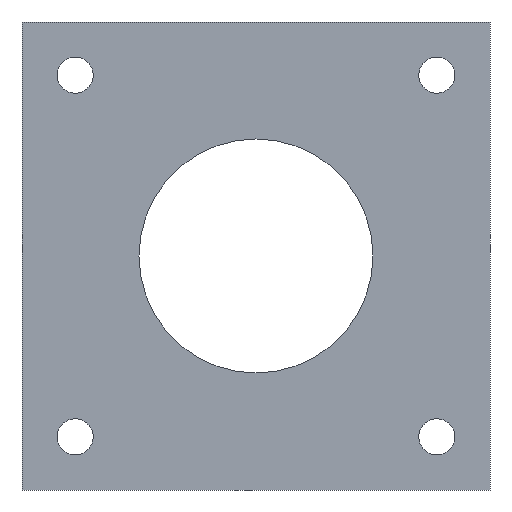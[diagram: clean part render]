
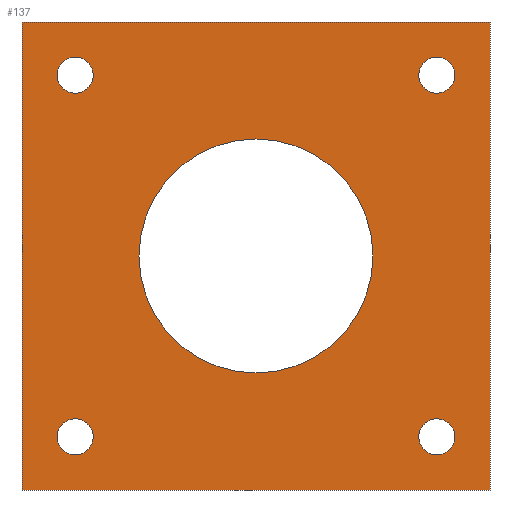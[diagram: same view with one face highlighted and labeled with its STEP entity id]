
A CAD part, front view. The second image highlights one B-rep face of the part: STEP entity #137.
In plain terms, the highlighted planar face has unit normal (0, -1, 0).
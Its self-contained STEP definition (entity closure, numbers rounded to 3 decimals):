
#21 = EDGE_CURVE('',#22,#24,#26,.T.);
#22 = VERTEX_POINT('',#23);
#23 = CARTESIAN_POINT('',(-22.,-1.5,0.));
#24 = VERTEX_POINT('',#25);
#25 = CARTESIAN_POINT('',(-22.,-1.5,44.));
#26 = SURFACE_CURVE('',#27,(#31,#43),.PCURVE_S1.);
#27 = LINE('',#28,#29);
#28 = CARTESIAN_POINT('',(-22.,-1.5,0.));
#29 = VECTOR('',#30,1.);
#30 = DIRECTION('',(0.,0.,1.));
#31 = PCURVE('',#32,#37);
#32 = PLANE('',#33);
#33 = AXIS2_PLACEMENT_3D('',#34,#35,#36);
#34 = CARTESIAN_POINT('',(-22.,-1.5,0.));
#35 = DIRECTION('',(1.,0.,0.));
#36 = DIRECTION('',(0.,0.,1.));
#37 = DEFINITIONAL_REPRESENTATION('',(#38),#42);
#38 = LINE('',#39,#40);
#39 = CARTESIAN_POINT('',(0.,0.));
#40 = VECTOR('',#41,1.);
#41 = DIRECTION('',(1.,0.));
#42 = ( GEOMETRIC_REPRESENTATION_CONTEXT(2) 
PARAMETRIC_REPRESENTATION_CONTEXT() REPRESENTATION_CONTEXT('2D SPACE',''
  ) );
#43 = PCURVE('',#44,#49);
#44 = PLANE('',#45);
#45 = AXIS2_PLACEMENT_3D('',#46,#47,#48);
#46 = CARTESIAN_POINT('',(-22.,-1.5,0.));
#47 = DIRECTION('',(0.,1.,0.));
#48 = DIRECTION('',(0.,0.,1.));
#49 = DEFINITIONAL_REPRESENTATION('',(#50),#54);
#50 = LINE('',#51,#52);
#51 = CARTESIAN_POINT('',(0.,0.));
#52 = VECTOR('',#53,1.);
#53 = DIRECTION('',(1.,0.));
#54 = ( GEOMETRIC_REPRESENTATION_CONTEXT(2) 
PARAMETRIC_REPRESENTATION_CONTEXT() REPRESENTATION_CONTEXT('2D SPACE',''
  ) );
#72 = PLANE('',#73);
#73 = AXIS2_PLACEMENT_3D('',#74,#75,#76);
#74 = CARTESIAN_POINT('',(-22.,-1.5,0.));
#75 = DIRECTION('',(0.,0.,1.));
#76 = DIRECTION('',(1.,0.,0.));
#126 = PLANE('',#127);
#127 = AXIS2_PLACEMENT_3D('',#128,#129,#130);
#128 = CARTESIAN_POINT('',(-22.,-1.5,44.));
#129 = DIRECTION('',(0.,0.,1.));
#130 = DIRECTION('',(1.,0.,0.));
#137 = ADVANCED_FACE('',(#138,#213,#244,#275,#306,#337),#44,.F.);
#138 = FACE_BOUND('',#139,.F.);
#139 = EDGE_LOOP('',(#140,#163,#164,#187));
#140 = ORIENTED_EDGE('',*,*,#141,.F.);
#141 = EDGE_CURVE('',#22,#142,#144,.T.);
#142 = VERTEX_POINT('',#143);
#143 = CARTESIAN_POINT('',(22.,-1.5,0.));
#144 = SURFACE_CURVE('',#145,(#149,#156),.PCURVE_S1.);
#145 = LINE('',#146,#147);
#146 = CARTESIAN_POINT('',(-22.,-1.5,0.));
#147 = VECTOR('',#148,1.);
#148 = DIRECTION('',(1.,0.,0.));
#149 = PCURVE('',#44,#150);
#150 = DEFINITIONAL_REPRESENTATION('',(#151),#155);
#151 = LINE('',#152,#153);
#152 = CARTESIAN_POINT('',(0.,0.));
#153 = VECTOR('',#154,1.);
#154 = DIRECTION('',(0.,1.));
#155 = ( GEOMETRIC_REPRESENTATION_CONTEXT(2) 
PARAMETRIC_REPRESENTATION_CONTEXT() REPRESENTATION_CONTEXT('2D SPACE',''
  ) );
#156 = PCURVE('',#72,#157);
#157 = DEFINITIONAL_REPRESENTATION('',(#158),#162);
#158 = LINE('',#159,#160);
#159 = CARTESIAN_POINT('',(0.,0.));
#160 = VECTOR('',#161,1.);
#161 = DIRECTION('',(1.,0.));
#162 = ( GEOMETRIC_REPRESENTATION_CONTEXT(2) 
PARAMETRIC_REPRESENTATION_CONTEXT() REPRESENTATION_CONTEXT('2D SPACE',''
  ) );
#163 = ORIENTED_EDGE('',*,*,#21,.T.);
#164 = ORIENTED_EDGE('',*,*,#165,.T.);
#165 = EDGE_CURVE('',#24,#166,#168,.T.);
#166 = VERTEX_POINT('',#167);
#167 = CARTESIAN_POINT('',(22.,-1.5,44.));
#168 = SURFACE_CURVE('',#169,(#173,#180),.PCURVE_S1.);
#169 = LINE('',#170,#171);
#170 = CARTESIAN_POINT('',(-22.,-1.5,44.));
#171 = VECTOR('',#172,1.);
#172 = DIRECTION('',(1.,0.,0.));
#173 = PCURVE('',#44,#174);
#174 = DEFINITIONAL_REPRESENTATION('',(#175),#179);
#175 = LINE('',#176,#177);
#176 = CARTESIAN_POINT('',(44.,0.));
#177 = VECTOR('',#178,1.);
#178 = DIRECTION('',(0.,1.));
#179 = ( GEOMETRIC_REPRESENTATION_CONTEXT(2) 
PARAMETRIC_REPRESENTATION_CONTEXT() REPRESENTATION_CONTEXT('2D SPACE',''
  ) );
#180 = PCURVE('',#126,#181);
#181 = DEFINITIONAL_REPRESENTATION('',(#182),#186);
#182 = LINE('',#183,#184);
#183 = CARTESIAN_POINT('',(0.,0.));
#184 = VECTOR('',#185,1.);
#185 = DIRECTION('',(1.,0.));
#186 = ( GEOMETRIC_REPRESENTATION_CONTEXT(2) 
PARAMETRIC_REPRESENTATION_CONTEXT() REPRESENTATION_CONTEXT('2D SPACE',''
  ) );
#187 = ORIENTED_EDGE('',*,*,#188,.F.);
#188 = EDGE_CURVE('',#142,#166,#189,.T.);
#189 = SURFACE_CURVE('',#190,(#194,#201),.PCURVE_S1.);
#190 = LINE('',#191,#192);
#191 = CARTESIAN_POINT('',(22.,-1.5,0.));
#192 = VECTOR('',#193,1.);
#193 = DIRECTION('',(0.,0.,1.));
#194 = PCURVE('',#44,#195);
#195 = DEFINITIONAL_REPRESENTATION('',(#196),#200);
#196 = LINE('',#197,#198);
#197 = CARTESIAN_POINT('',(0.,44.));
#198 = VECTOR('',#199,1.);
#199 = DIRECTION('',(1.,0.));
#200 = ( GEOMETRIC_REPRESENTATION_CONTEXT(2) 
PARAMETRIC_REPRESENTATION_CONTEXT() REPRESENTATION_CONTEXT('2D SPACE',''
  ) );
#201 = PCURVE('',#202,#207);
#202 = PLANE('',#203);
#203 = AXIS2_PLACEMENT_3D('',#204,#205,#206);
#204 = CARTESIAN_POINT('',(22.,-1.5,0.));
#205 = DIRECTION('',(1.,0.,0.));
#206 = DIRECTION('',(0.,0.,1.));
#207 = DEFINITIONAL_REPRESENTATION('',(#208),#212);
#208 = LINE('',#209,#210);
#209 = CARTESIAN_POINT('',(0.,0.));
#210 = VECTOR('',#211,1.);
#211 = DIRECTION('',(1.,0.));
#212 = ( GEOMETRIC_REPRESENTATION_CONTEXT(2) 
PARAMETRIC_REPRESENTATION_CONTEXT() REPRESENTATION_CONTEXT('2D SPACE',''
  ) );
#213 = FACE_BOUND('',#214,.F.);
#214 = EDGE_LOOP('',(#215));
#215 = ORIENTED_EDGE('',*,*,#216,.F.);
#216 = EDGE_CURVE('',#217,#217,#219,.T.);
#217 = VERTEX_POINT('',#218);
#218 = CARTESIAN_POINT('',(-17.,-1.5,6.7));
#219 = SURFACE_CURVE('',#220,(#225,#232),.PCURVE_S1.);
#220 = CIRCLE('',#221,1.7);
#221 = AXIS2_PLACEMENT_3D('',#222,#223,#224);
#222 = CARTESIAN_POINT('',(-17.,-1.5,5.));
#223 = DIRECTION('',(0.,1.,0.));
#224 = DIRECTION('',(0.,-0.,1.));
#225 = PCURVE('',#44,#226);
#226 = DEFINITIONAL_REPRESENTATION('',(#227),#231);
#227 = CIRCLE('',#228,1.7);
#228 = AXIS2_PLACEMENT_2D('',#229,#230);
#229 = CARTESIAN_POINT('',(5.,5.));
#230 = DIRECTION('',(1.,0.));
#231 = ( GEOMETRIC_REPRESENTATION_CONTEXT(2) 
PARAMETRIC_REPRESENTATION_CONTEXT() REPRESENTATION_CONTEXT('2D SPACE',''
  ) );
#232 = PCURVE('',#233,#238);
#233 = CYLINDRICAL_SURFACE('',#234,1.7);
#234 = AXIS2_PLACEMENT_3D('',#235,#236,#237);
#235 = CARTESIAN_POINT('',(-17.,-1.5,5.));
#236 = DIRECTION('',(0.,1.,0.));
#237 = DIRECTION('',(0.,-0.,1.));
#238 = DEFINITIONAL_REPRESENTATION('',(#239),#243);
#239 = LINE('',#240,#241);
#240 = CARTESIAN_POINT('',(0.,0.));
#241 = VECTOR('',#242,1.);
#242 = DIRECTION('',(1.,0.));
#243 = ( GEOMETRIC_REPRESENTATION_CONTEXT(2) 
PARAMETRIC_REPRESENTATION_CONTEXT() REPRESENTATION_CONTEXT('2D SPACE',''
  ) );
#244 = FACE_BOUND('',#245,.F.);
#245 = EDGE_LOOP('',(#246));
#246 = ORIENTED_EDGE('',*,*,#247,.F.);
#247 = EDGE_CURVE('',#248,#248,#250,.T.);
#248 = VERTEX_POINT('',#249);
#249 = CARTESIAN_POINT('',(-17.,-1.5,40.7));
#250 = SURFACE_CURVE('',#251,(#256,#263),.PCURVE_S1.);
#251 = CIRCLE('',#252,1.7);
#252 = AXIS2_PLACEMENT_3D('',#253,#254,#255);
#253 = CARTESIAN_POINT('',(-17.,-1.5,39.));
#254 = DIRECTION('',(0.,1.,0.));
#255 = DIRECTION('',(0.,-0.,1.));
#256 = PCURVE('',#44,#257);
#257 = DEFINITIONAL_REPRESENTATION('',(#258),#262);
#258 = CIRCLE('',#259,1.7);
#259 = AXIS2_PLACEMENT_2D('',#260,#261);
#260 = CARTESIAN_POINT('',(39.,5.));
#261 = DIRECTION('',(1.,0.));
#262 = ( GEOMETRIC_REPRESENTATION_CONTEXT(2) 
PARAMETRIC_REPRESENTATION_CONTEXT() REPRESENTATION_CONTEXT('2D SPACE',''
  ) );
#263 = PCURVE('',#264,#269);
#264 = CYLINDRICAL_SURFACE('',#265,1.7);
#265 = AXIS2_PLACEMENT_3D('',#266,#267,#268);
#266 = CARTESIAN_POINT('',(-17.,-1.5,39.));
#267 = DIRECTION('',(0.,1.,0.));
#268 = DIRECTION('',(0.,-0.,1.));
#269 = DEFINITIONAL_REPRESENTATION('',(#270),#274);
#270 = LINE('',#271,#272);
#271 = CARTESIAN_POINT('',(0.,0.));
#272 = VECTOR('',#273,1.);
#273 = DIRECTION('',(1.,0.));
#274 = ( GEOMETRIC_REPRESENTATION_CONTEXT(2) 
PARAMETRIC_REPRESENTATION_CONTEXT() REPRESENTATION_CONTEXT('2D SPACE',''
  ) );
#275 = FACE_BOUND('',#276,.F.);
#276 = EDGE_LOOP('',(#277));
#277 = ORIENTED_EDGE('',*,*,#278,.F.);
#278 = EDGE_CURVE('',#279,#279,#281,.T.);
#279 = VERTEX_POINT('',#280);
#280 = CARTESIAN_POINT('',(0.,-1.5,33.));
#281 = SURFACE_CURVE('',#282,(#287,#294),.PCURVE_S1.);
#282 = CIRCLE('',#283,11.);
#283 = AXIS2_PLACEMENT_3D('',#284,#285,#286);
#284 = CARTESIAN_POINT('',(0.,-1.5,22.));
#285 = DIRECTION('',(0.,1.,0.));
#286 = DIRECTION('',(0.,-0.,1.));
#287 = PCURVE('',#44,#288);
#288 = DEFINITIONAL_REPRESENTATION('',(#289),#293);
#289 = CIRCLE('',#290,11.);
#290 = AXIS2_PLACEMENT_2D('',#291,#292);
#291 = CARTESIAN_POINT('',(22.,22.));
#292 = DIRECTION('',(1.,0.));
#293 = ( GEOMETRIC_REPRESENTATION_CONTEXT(2) 
PARAMETRIC_REPRESENTATION_CONTEXT() REPRESENTATION_CONTEXT('2D SPACE',''
  ) );
#294 = PCURVE('',#295,#300);
#295 = CYLINDRICAL_SURFACE('',#296,11.);
#296 = AXIS2_PLACEMENT_3D('',#297,#298,#299);
#297 = CARTESIAN_POINT('',(0.,-1.5,22.));
#298 = DIRECTION('',(0.,1.,0.));
#299 = DIRECTION('',(0.,-0.,1.));
#300 = DEFINITIONAL_REPRESENTATION('',(#301),#305);
#301 = LINE('',#302,#303);
#302 = CARTESIAN_POINT('',(0.,0.));
#303 = VECTOR('',#304,1.);
#304 = DIRECTION('',(1.,0.));
#305 = ( GEOMETRIC_REPRESENTATION_CONTEXT(2) 
PARAMETRIC_REPRESENTATION_CONTEXT() REPRESENTATION_CONTEXT('2D SPACE',''
  ) );
#306 = FACE_BOUND('',#307,.F.);
#307 = EDGE_LOOP('',(#308));
#308 = ORIENTED_EDGE('',*,*,#309,.F.);
#309 = EDGE_CURVE('',#310,#310,#312,.T.);
#310 = VERTEX_POINT('',#311);
#311 = CARTESIAN_POINT('',(17.,-1.5,6.7));
#312 = SURFACE_CURVE('',#313,(#318,#325),.PCURVE_S1.);
#313 = CIRCLE('',#314,1.7);
#314 = AXIS2_PLACEMENT_3D('',#315,#316,#317);
#315 = CARTESIAN_POINT('',(17.,-1.5,5.));
#316 = DIRECTION('',(0.,1.,0.));
#317 = DIRECTION('',(0.,-0.,1.));
#318 = PCURVE('',#44,#319);
#319 = DEFINITIONAL_REPRESENTATION('',(#320),#324);
#320 = CIRCLE('',#321,1.7);
#321 = AXIS2_PLACEMENT_2D('',#322,#323);
#322 = CARTESIAN_POINT('',(5.,39.));
#323 = DIRECTION('',(1.,0.));
#324 = ( GEOMETRIC_REPRESENTATION_CONTEXT(2) 
PARAMETRIC_REPRESENTATION_CONTEXT() REPRESENTATION_CONTEXT('2D SPACE',''
  ) );
#325 = PCURVE('',#326,#331);
#326 = CYLINDRICAL_SURFACE('',#327,1.7);
#327 = AXIS2_PLACEMENT_3D('',#328,#329,#330);
#328 = CARTESIAN_POINT('',(17.,-1.5,5.));
#329 = DIRECTION('',(0.,1.,0.));
#330 = DIRECTION('',(0.,-0.,1.));
#331 = DEFINITIONAL_REPRESENTATION('',(#332),#336);
#332 = LINE('',#333,#334);
#333 = CARTESIAN_POINT('',(0.,0.));
#334 = VECTOR('',#335,1.);
#335 = DIRECTION('',(1.,0.));
#336 = ( GEOMETRIC_REPRESENTATION_CONTEXT(2) 
PARAMETRIC_REPRESENTATION_CONTEXT() REPRESENTATION_CONTEXT('2D SPACE',''
  ) );
#337 = FACE_BOUND('',#338,.F.);
#338 = EDGE_LOOP('',(#339));
#339 = ORIENTED_EDGE('',*,*,#340,.F.);
#340 = EDGE_CURVE('',#341,#341,#343,.T.);
#341 = VERTEX_POINT('',#342);
#342 = CARTESIAN_POINT('',(17.,-1.5,40.7));
#343 = SURFACE_CURVE('',#344,(#349,#356),.PCURVE_S1.);
#344 = CIRCLE('',#345,1.7);
#345 = AXIS2_PLACEMENT_3D('',#346,#347,#348);
#346 = CARTESIAN_POINT('',(17.,-1.5,39.));
#347 = DIRECTION('',(0.,1.,0.));
#348 = DIRECTION('',(0.,-0.,1.));
#349 = PCURVE('',#44,#350);
#350 = DEFINITIONAL_REPRESENTATION('',(#351),#355);
#351 = CIRCLE('',#352,1.7);
#352 = AXIS2_PLACEMENT_2D('',#353,#354);
#353 = CARTESIAN_POINT('',(39.,39.));
#354 = DIRECTION('',(1.,0.));
#355 = ( GEOMETRIC_REPRESENTATION_CONTEXT(2) 
PARAMETRIC_REPRESENTATION_CONTEXT() REPRESENTATION_CONTEXT('2D SPACE',''
  ) );
#356 = PCURVE('',#357,#362);
#357 = CYLINDRICAL_SURFACE('',#358,1.7);
#358 = AXIS2_PLACEMENT_3D('',#359,#360,#361);
#359 = CARTESIAN_POINT('',(17.,-1.5,39.));
#360 = DIRECTION('',(0.,1.,0.));
#361 = DIRECTION('',(0.,-0.,1.));
#362 = DEFINITIONAL_REPRESENTATION('',(#363),#367);
#363 = LINE('',#364,#365);
#364 = CARTESIAN_POINT('',(0.,0.));
#365 = VECTOR('',#366,1.);
#366 = DIRECTION('',(1.,0.));
#367 = ( GEOMETRIC_REPRESENTATION_CONTEXT(2) 
PARAMETRIC_REPRESENTATION_CONTEXT() REPRESENTATION_CONTEXT('2D SPACE',''
  ) );
